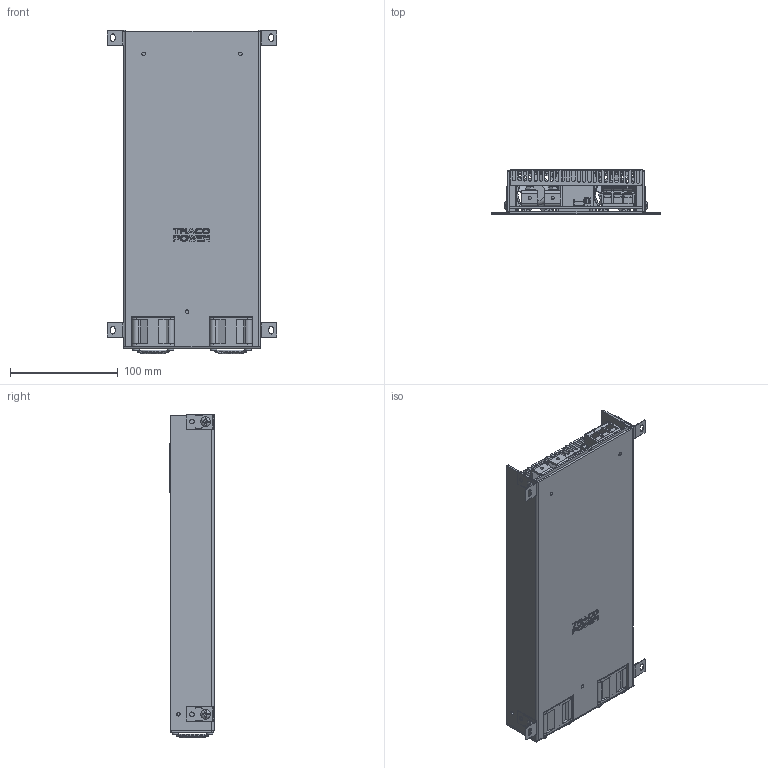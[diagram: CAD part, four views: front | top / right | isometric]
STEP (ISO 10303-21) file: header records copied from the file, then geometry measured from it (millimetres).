
FILE_DESCRIPTION (( 'STEP AP214' ), '1' );
FILE_NAME ('TXL-1000.STEP', '2013-08-05T01:46:15', ( 'users' ), ( '' ), 'SwSTEP 2.0', 'SolidWorks 2012', '' );
FILE_SCHEMA (( 'AUTOMOTIVE_DESIGN' ));
Length unit declared in the file: millimetre
Products named in the file (17): 傘頭; 60477004; 61581006; 83720124; 83705367; 60465205; 61615036; 35254144; 36290025; 60472136; 36290183; 31156068; 2302-05R4; 60482006; FAN40x28; 60460058; TXL-1000
Assembly tree (26 placements, depth 2):
  TXL-1000
    60460058
    FAN40x28  x2
    60482006  x2
    2302-05R4
    31156068
    36290183
    60472136  x2
    36290025
    35254144
    61615036
    60465205
    83705367
    83720124
    61581006  x2
    60477004  x4
    傘頭  x4
Bounding box: 157 x 40.9 x 300.4 mm (x, y, z)
Volume: 240139.8 mm3; surface area: 313535.9 mm2
Topology: 44 solids, 44 shells, 3564 faces, 9364 edges, 5930 vertices
Faces by surface type: plane 2270, cylinder 646, bspline 534, torus 68, sphere 40, cone 6
Entity records: 122065 total; most frequent: CARTESIAN_POINT 44704, ORIENTED_EDGE 15910, DIRECTION 13182, EDGE_CURVE 7955, LINE 5756, VECTOR 5756, VERTEX_POINT 5097, AXIS2_PLACEMENT_3D 3713
